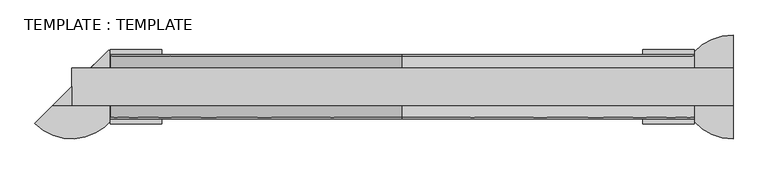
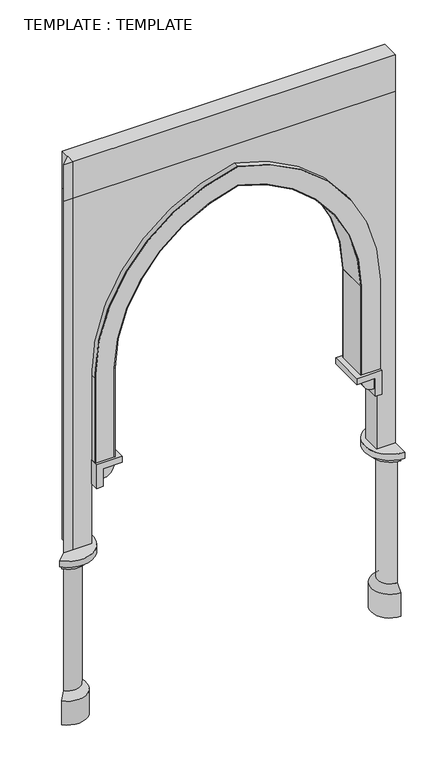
"""IFC4 building model written with IfcOpenShell, lengths in millimetres: plate geometry, TEMPLATE : TEMPLATE."""

from ifc_helpers import new_model, si_unit, point, frame, frame_2d, origin, place, context, project, spatial, polyline, circle_curve, trimmed, segment, composite_curve, outline, extrude, source, transform, mapped, element, save
from ifc_brep_helpers import plane_surface, cylinder_surface, revolved_surface, advanced_brep


def template_template_6cb1fb04(model_context):
    return source(origin(), model_context, "Body", "SolidModel", [
        extrude(outline(polyline([(-1250.0, 0.0), (-1250.0, -71.2450521), (-1321.2450521, -71.2450521), (-1250.0, 0.0)])), frame((0.0, 0.0, 4250.0), z_axis=(0.0, 0.0, 1.0), x_axis=(1.0, 0.0, 0.0)), (0.0, 0.0, 1.0), 300.0),
        extrude(outline(polyline([(1250.0, 71.2450521), (1250.0, -71.2450521), (-1250.0, -71.2450521), (-1250.0, 71.2450521), (1250.0, 71.2450521)])), frame((0.0, 0.0, 4250.0), z_axis=(0.0, 0.0, 1.0), x_axis=(1.0, 0.0, 0.0)), (0.0, 0.0, 1.0), 300.0),
        extrude(outline(composite_curve([segment(polyline([(2062.5, -1103.90625), (2062.5, -952.8125), (2789.7201638, -952.8125)]), True, "CONTINUOUS"), segment(trimmed(circle_curve(frame_2d((2770.9553186, 249.8536177)), 1202.8125), [point((2789.7201638, -952.8125))], [point((3947.5313169, 0.0))], True, "CARTESIAN"), True, "CONTINUOUS"), segment(trimmed(circle_curve(frame_2d((2770.9553186, -249.8536177)), 1202.8125), [point((3947.5313169, 0.0))], [point((2789.7201638, 952.8125))], True, "CARTESIAN"), True, "CONTINUOUS"), segment(polyline([(2789.7201638, 952.8125), (2062.5, 952.8125), (2062.5, 1103.90625), (2751.0466695, 1103.90625)]), True, "CONTINUOUS"), segment(trimmed(circle_curve(frame_2d((2770.9553186, -249.8536177)), 1353.90625), [point((2751.0466695, 1103.90625))], [point((4101.6075284, 0.0))], False, "CARTESIAN"), True, "CONTINUOUS"), segment(trimmed(circle_curve(frame_2d((2770.9553186, 249.8536177)), 1353.90625), [point((4101.6075284, 0.0))], [point((2751.0466695, -1103.90625))], False, "CARTESIAN"), True, "CONTINUOUS"), segment(polyline([(2751.0466695, -1103.90625), (2062.5, -1103.90625)]), True, "CONTINUOUS")], self_intersect=False)), frame((0.0, 116.8675781, 0.0), z_axis=(0.0, 1.0, 0.0), x_axis=(0.0, 0.0, 1.0)), (0.0, 0.0, 1.0), 5.0),
        extrude(outline(polyline([(-1250.0, 0.0), (-1250.0, -71.2450521), (-1321.2450521, -71.2450521), (-1250.0, 0.0)])), frame((0.0, 0.0, 1375.0), z_axis=(0.0, 0.0, 1.0), x_axis=(1.0, 0.0, 0.0)), (0.0, 0.0, 1.0), 2875.0),
        extrude(outline(composite_curve([segment(polyline([(2789.6812853, 952.813106), (2789.7591277, 957.8125)]), True, "CONTINUOUS"), segment(trimmed(circle_curve(frame_2d((2770.9553186, -249.8536177)), 1207.8125), [point((2789.7591277, 957.8125))], [point((3952.642335, 0.0))], False, "CARTESIAN"), True, "CONTINUOUS"), segment(trimmed(circle_curve(frame_2d((2770.9553186, 249.8536177)), 1207.8125), [point((3952.642335, 0.0))], [point((2789.7591277, -957.8125))], False, "CARTESIAN"), True, "CONTINUOUS"), segment(polyline([(2789.7591277, -957.8125), (2789.6812853, -952.813106)]), True, "CONTINUOUS"), segment(trimmed(circle_curve(frame_2d((2770.9553186, 249.8536177)), 1202.8125), [point((2789.6812853, -952.813106))], [point((3947.5313169, 0.0))], True, "CARTESIAN"), True, "CONTINUOUS"), segment(trimmed(circle_curve(frame_2d((2770.9553186, -249.8536177)), 1202.8125), [point((3947.5313169, 0.0))], [point((2789.6812853, 952.813106))], True, "CARTESIAN"), True, "CONTINUOUS")], self_intersect=False)), frame((0.0, -121.8675781, 0.0), z_axis=(0.0, 1.0, 0.0), x_axis=(0.0, 0.0, 1.0)), (0.0, 0.0, 1.0), 238.7351563),
        extrude(outline(polyline([(957.8125, 116.8675781), (957.8125, -121.8675781), (952.8125, -121.8675781), (952.8125, 116.8675781), (957.8125, 116.8675781)])), frame((0.0, 0.0, 2062.5), z_axis=(0.0, 0.0, 1.0), x_axis=(1.0, 0.0, 0.0)), (0.0, 0.0, 1.0), 727.2591277),
        extrude(outline(polyline([(-952.8125, 116.8675781), (-952.8125, -121.8675781), (-957.8125, -121.8675781), (-957.8125, 116.8675781), (-952.8125, 116.8675781)])), frame((0.0, 0.0, 2062.5), z_axis=(0.0, 0.0, 1.0), x_axis=(1.0, 0.0, 0.0)), (0.0, 0.0, 1.0), 727.2591277),
        extrude(outline(composite_curve([segment(polyline([(2013.8020833, 1055.2083333), (2013.8020833, 957.8125)]), True, "CONTINUOUS"), segment(trimmed(circle_curve(frame_2d((2013.8020833, 1055.2083333)), 97.3958333), [point((2013.8020833, 957.8125))], [point((1916.40625, 1055.2083333))], False, "CARTESIAN"), True, "CONTINUOUS"), segment(polyline([(1916.40625, 1055.2083333), (2013.8020833, 1055.2083333)]), True, "CONTINUOUS")], self_intersect=False)), frame((0.0, -121.8675781, 0.0), z_axis=(0.0, 1.0, 0.0), x_axis=(0.0, 0.0, 1.0)), (0.0, 0.0, 1.0), 238.7351563),
        extrude(outline(composite_curve([segment(polyline([(2013.8020833, -1055.2083333), (1916.40625, -1055.2083333)]), True, "CONTINUOUS"), segment(trimmed(circle_curve(frame_2d((2013.8020833, -1055.2083333)), 97.3958333), [point((1916.40625, -1055.2083333))], [point((2013.8020833, -957.8125))], False, "CARTESIAN"), True, "CONTINUOUS"), segment(polyline([(2013.8020833, -957.8125), (2013.8020833, -1055.2083333)]), True, "CONTINUOUS")], self_intersect=False)), frame((0.0, -121.8675781, 0.0), z_axis=(0.0, 1.0, 0.0), x_axis=(0.0, 0.0, 1.0)), (0.0, 0.0, 1.0), 238.7351563),
        advanced_brep(
        [(-1110.8841065, 139.1158935, 1375.0), (-1110.8841065, 139.1158935, 1324.3541667), (-1146.6961187, 103.3038813, 1324.3541667), (-1146.6961187, 103.3038813, 1273.7083333), (-1181.1307458, 68.8692542, 1273.7083333), (-1181.1307458, 68.8692542, 245.4375), (-1146.6961187, 103.3038813, 194.7916667), (-1146.6961187, 103.3038813, 0.0), (-1250.0, 0.0, 0.0), (-1250.0, 0.0, 1375.0), (-1389.1158935, -139.1158935, 1375.0), (-1353.3038813, -103.3038813, 0.0), (-1353.3038813, -103.3038813, 194.7916667), (-1318.8692542, -68.8692542, 245.4375), (-1318.8692542, -68.8692542, 1273.7083333), (-1353.3038813, -103.3038813, 1273.7083333), (-1353.3038813, -103.3038813, 1324.3541667), (-1389.1158935, -139.1158935, 1324.3541667)],
        [
            (0, 1),
            (1, 2),
            (2, 3),
            (3, 4),
            (4, 5),
            (5, 6),
            (6, 7),
            (7, 8),
            (8, 9),
            (9, 0),
            (10, 9),
            (8, 11),
            (11, 12),
            (12, 13),
            (13, 14),
            (14, 15),
            (15, 16),
            (16, 17),
            (17, 10),
            (17, 1, circle_curve(frame((-1250.0, 0.0, 1324.3541667), z_axis=(0.0, 0.0, 1.0), x_axis=(0.7071067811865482, 0.707106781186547, 0.0)), 196.7395833)),
            (0, 10, circle_curve(frame((-1250.0, 0.0, 1375.0), z_axis=(0.0, 0.0, -1.0), x_axis=(0.7071067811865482, 0.707106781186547, 0.0)), 196.7395833)),
            (16, 2, circle_curve(frame((-1250.0, 0.0, 1324.3541667), z_axis=(0.0, 0.0, 1.0), x_axis=(0.7071067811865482, 0.707106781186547, 0.0)), 146.09375)),
            (15, 3, circle_curve(frame((-1250.0, 0.0, 1273.7083333), z_axis=(0.0, 0.0, 1.0), x_axis=(0.7071067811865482, 0.707106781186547, 0.0)), 146.09375)),
            (14, 4, circle_curve(frame((-1250.0, 0.0, 1273.7083333), z_axis=(0.0, 0.0, 1.0), x_axis=(0.7071067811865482, 0.707106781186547, 0.0)), 97.3958333)),
            (13, 5, circle_curve(frame((-1250.0, 0.0, 245.4375), z_axis=(0.0, 0.0, 1.0), x_axis=(0.7071067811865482, 0.707106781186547, 0.0)), 97.3958333)),
            (12, 6, circle_curve(frame((-1250.0, 0.0, 194.7916667), z_axis=(0.0, 0.0, 1.0), x_axis=(0.7071067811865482, 0.707106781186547, 0.0)), 146.09375)),
            (11, 7, circle_curve(frame((-1250.0, 0.0, 0.0), z_axis=(0.0, 0.0, 1.0), x_axis=(0.7071067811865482, 0.707106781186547, 0.0)), 146.09375)),
        ],
        [
            plane_surface(frame((-1250.0, 0.0, -1400.0), z_axis=(-0.707106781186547, 0.7071067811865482, 0.0), x_axis=(0.7071067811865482, 0.707106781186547, 0.0))),
            plane_surface(frame((-1250.0, 0.0, -1400.0), z_axis=(-0.7071067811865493, 0.7071067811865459, 0.0), x_axis=(-0.7071067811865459, -0.7071067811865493, 0.0))),
            cylinder_surface(frame((-1250.0, 0.0, -1400.0), z_axis=(0.0, 0.0, 1.0), x_axis=(0.7071067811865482, 0.707106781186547, 0.0)), 196.7395833),
            plane_surface(frame((-1250.0, 0.0, 1324.3541667), z_axis=(0.0, 0.0, -1.0000000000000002), x_axis=(0.7071067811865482, 0.707106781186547, 0.0))),
            cylinder_surface(frame((-1250.0, 0.0, -1400.0), z_axis=(0.0, 0.0, 1.0), x_axis=(0.7071067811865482, 0.707106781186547, 0.0)), 146.09375),
            plane_surface(frame((-1250.0, 0.0, 1273.7083333), z_axis=(0.0, 0.0, -1.0000000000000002), x_axis=(0.7071067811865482, 0.707106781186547, 0.0))),
            cylinder_surface(frame((-1250.0, 0.0, -1400.0), z_axis=(0.0, 0.0, 1.0), x_axis=(0.7071067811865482, 0.707106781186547, 0.0)), 97.3958333),
            revolved_surface(polyline([(-1146.6961187, 103.3038813, 194.7916667), (-1181.1307458, 68.8692542, 245.4375)]), (-1250.0, 0.0, -1400.0), (0.0, 0.0, 1.0)),
            plane_surface(frame((-1250.0, 0.0, 0.0), z_axis=(0.0, 0.0, -1.0000000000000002), x_axis=(0.7071067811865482, 0.707106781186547, 0.0))),
            plane_surface(frame((-1250.0, 0.0, 1375.0), z_axis=(0.0, 0.0, 1.0000000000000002), x_axis=(0.7071067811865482, 0.707106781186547, 0.0))),
        ],
        [
            (0, [[1, 2, 3, 4, 5, 6, 7, 8, 9, 10]]),
            (1, [[11, -9, 12, 13, 14, 15, 16, 17, 18, 19]]),
            (2, [[-19, 20, -1, 21]]),
            (3, [[-18, 22, -2, -20]]),
            (4, [[-17, 23, -3, -22]]),
            (5, [[-16, 24, -4, -23]]),
            (6, [[-15, 25, -5, -24]]),
            (7, [[-14, 26, -6, -25]]),
            (4, [[-13, 27, -7, -26]]),
            (8, [[-12, -8, -27]]),
            (9, [[-11, -21, -10]]),
        ],
    ),
        extrude(outline(polyline([(2062.5, 1103.90625), (2062.5, 909.1145833), (2013.8020833, 909.1145833), (2013.8020833, 1055.2083333), (1867.7083333, 1055.2083333), (1867.7083333, 1103.90625), (2062.5, 1103.90625)])), frame((0.0, -141.2165365, 0.0), z_axis=(0.0, 1.0, 0.0), x_axis=(0.0, 0.0, 1.0)), (0.0, 0.0, 1.0), 282.4330729),
        extrude(outline(polyline([(2062.5, -1103.90625), (1867.7083333, -1103.90625), (1867.7083333, -1055.2083333), (2013.8020833, -1055.2083333), (2013.8020833, -909.1145833), (2062.5, -909.1145833), (2062.5, -1103.90625)])), frame((0.0, -141.2165365, 0.0), z_axis=(0.0, 1.0, 0.0), x_axis=(0.0, 0.0, 1.0)), (0.0, 0.0, 1.0), 282.4330729),
        advanced_brep(
        [(1250.0, 196.7395833, 1375.0), (1250.0, 0.0, 1375.0), (1250.0, 0.0, 0.0), (1250.0, 146.09375, 0.0), (1250.0, 146.09375, 194.7916667), (1250.0, 97.3958333, 245.4375), (1250.0, 97.3958333, 1273.7083333), (1250.0, 146.09375, 1273.7083333), (1250.0, 146.09375, 1324.3541667), (1250.0, 196.7395833, 1324.3541667), (1250.0, -196.7395833, 1375.0), (1250.0, -196.7395833, 1324.3541667), (1250.0, -146.09375, 1324.3541667), (1250.0, -146.09375, 1273.7083333), (1250.0, -97.3958333, 1273.7083333), (1250.0, -97.3958333, 245.4375), (1250.0, -146.09375, 194.7916667), (1250.0, -146.09375, 0.0)],
        [
            (0, 1),
            (1, 2),
            (2, 3),
            (3, 4),
            (4, 5),
            (5, 6),
            (6, 7),
            (7, 8),
            (8, 9),
            (9, 0),
            (10, 11),
            (11, 12),
            (12, 13),
            (13, 14),
            (14, 15),
            (15, 16),
            (16, 17),
            (17, 2),
            (1, 10),
            (10, 0, circle_curve(frame((1250.0, 0.0, 1375.0), z_axis=(0.0, 0.0, -1.0), x_axis=(0.0, 1.0000000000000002, 0.0)), 196.7395833)),
            (9, 11, circle_curve(frame((1250.0, 0.0, 1324.3541667), z_axis=(0.0, 0.0, 1.0), x_axis=(0.0, 1.0000000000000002, 0.0)), 196.7395833)),
            (8, 12, circle_curve(frame((1250.0, 0.0, 1324.3541667), z_axis=(0.0, 0.0, 1.0), x_axis=(0.0, 1.0000000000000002, 0.0)), 146.09375)),
            (7, 13, circle_curve(frame((1250.0, 0.0, 1273.7083333), z_axis=(0.0, 0.0, 1.0), x_axis=(0.0, 1.0000000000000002, 0.0)), 146.09375)),
            (6, 14, circle_curve(frame((1250.0, 0.0, 1273.7083333), z_axis=(0.0, 0.0, 1.0), x_axis=(0.0, 1.0000000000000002, 0.0)), 97.3958333)),
            (5, 15, circle_curve(frame((1250.0, 0.0, 245.4375), z_axis=(0.0, 0.0, 1.0), x_axis=(0.0, 1.0000000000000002, 0.0)), 97.3958333)),
            (4, 16, circle_curve(frame((1250.0, 0.0, 194.7916667), z_axis=(0.0, 0.0, 1.0), x_axis=(0.0, 1.0000000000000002, 0.0)), 146.09375)),
            (3, 17, circle_curve(frame((1250.0, 0.0, 0.0), z_axis=(0.0, 0.0, 1.0), x_axis=(0.0, 1.0000000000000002, 0.0)), 146.09375)),
        ],
        [
            plane_surface(frame((1250.0, 0.0, -1400.0), z_axis=(1.0, 0.0, 0.0), x_axis=(0.0, 1.0, 0.0))),
            plane_surface(frame((1250.0, 0.0, -1400.0), z_axis=(1.0, 0.0, 0.0), x_axis=(0.0, -1.0, 0.0))),
            cylinder_surface(frame((1250.0, 0.0, -1400.0), z_axis=(0.0, 0.0, -1.0), x_axis=(0.0, 1.0000000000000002, 0.0)), 196.7395833),
            plane_surface(frame((1250.0, 0.0, 1324.3541667), z_axis=(0.0, 0.0, -1.0), x_axis=(0.0, 1.0, 0.0))),
            cylinder_surface(frame((1250.0, 0.0, -1400.0), z_axis=(0.0, 0.0, -1.0), x_axis=(0.0, 1.0000000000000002, 0.0)), 146.09375),
            plane_surface(frame((1250.0, 0.0, 1273.7083333), z_axis=(0.0, 0.0, -1.0), x_axis=(0.0, 1.0, 0.0))),
            cylinder_surface(frame((1250.0, 0.0, -1400.0), z_axis=(0.0, 0.0, -1.0), x_axis=(0.0, 1.0000000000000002, 0.0)), 97.3958333),
            revolved_surface(polyline([(1250.0, 97.3958333, 245.4375), (1250.0, 146.09375, 194.7916667)]), (1250.0, 0.0, -1400.0), (0.0, 0.0, -1.0)),
            plane_surface(frame((1250.0, 0.0, 0.0), z_axis=(0.0, 0.0, -1.0), x_axis=(0.0, 1.0, 0.0))),
            plane_surface(frame((1250.0, 0.0, 1375.0), z_axis=(0.0, 0.0, 1.0), x_axis=(0.0, 1.0, 0.0))),
        ],
        [
            (0, [[1, 2, 3, 4, 5, 6, 7, 8, 9, 10]]),
            (1, [[11, 12, 13, 14, 15, 16, 17, 18, -2, 19]]),
            (2, [[-11, 20, -10, 21]]),
            (3, [[-12, -21, -9, 22]]),
            (4, [[-13, -22, -8, 23]]),
            (5, [[-14, -23, -7, 24]]),
            (6, [[-15, -24, -6, 25]]),
            (7, [[-16, -25, -5, 26]]),
            (4, [[-17, -26, -4, 27]]),
            (8, [[-18, -27, -3]]),
            (9, [[-19, -1, -20]]),
        ],
    ),
        extrude(outline(composite_curve([segment(polyline([(1375.0, 1250.0), (4250.0, 1250.0), (4250.0, -1250.0), (1375.0, -1250.0), (1375.0, -1103.90625), (2790.8639676, -1103.90625)]), True, "CONTINUOUS"), segment(trimmed(circle_curve(frame_2d((2770.9553186, 249.8536177)), 1353.90625), [point((2790.8639676, -1103.90625))], [point((4101.6075284, 0.0))], True, "CARTESIAN"), True, "CONTINUOUS"), segment(trimmed(circle_curve(frame_2d((2770.9553186, -249.8536177)), 1353.90625), [point((4101.6075284, 0.0))], [point((2790.8639676, 1103.90625))], True, "CARTESIAN"), True, "CONTINUOUS"), segment(polyline([(2790.8639676, 1103.90625), (1375.0, 1103.90625), (1375.0, 1250.0)]), True, "CONTINUOUS")], self_intersect=False)), frame((0.0, -71.2450521, 0.0), z_axis=(0.0, 1.0, 0.0), x_axis=(0.0, 0.0, 1.0)), (0.0, 0.0, 1.0), 142.4901042),
        extrude(outline(composite_curve([segment(trimmed(circle_curve(frame_2d((2770.9553186, 249.8536177)), 1353.90625), [point((4101.6075284, 0.0))], [point((2790.8639676, -1103.90625))], False, "CARTESIAN"), True, "CONTINUOUS"), segment(polyline([(2790.8639676, -1103.90625), (2062.5, -1103.90625), (2062.5, -957.8125), (2789.7591277, -957.8125)]), True, "CONTINUOUS"), segment(trimmed(circle_curve(frame_2d((2770.9553186, 249.8536177)), 1207.8125), [point((2789.7591277, -957.8125))], [point((3952.642335, 0.0))], True, "CARTESIAN"), True, "CONTINUOUS"), segment(trimmed(circle_curve(frame_2d((2770.9553186, -249.8536177)), 1207.8125), [point((3952.642335, 0.0))], [point((2789.7591277, 957.8125))], True, "CARTESIAN"), True, "CONTINUOUS"), segment(polyline([(2789.7591277, 957.8125), (2062.5, 957.8125), (2062.5, 1103.90625), (2790.8639676, 1103.90625)]), True, "CONTINUOUS"), segment(trimmed(circle_curve(frame_2d((2770.9553186, -249.8536177)), 1353.90625), [point((2790.8639676, 1103.90625))], [point((4101.6075284, 0.0))], False, "CARTESIAN"), True, "CONTINUOUS")], self_intersect=False)), frame((0.0, -121.8675781, 0.0), z_axis=(0.0, 1.0, 0.0), x_axis=(0.0, 0.0, 1.0)), (0.0, 0.0, 1.0), 5.0),
        extrude(outline(polyline([(-957.8125, -116.8675781), (-1103.90625, -116.8675781), (-1103.90625, 116.8675781), (-957.8125, 116.8675781), (-957.8125, -116.8675781)])), frame((0.0, 0.0, 2062.5), z_axis=(0.0, 0.0, 1.0), x_axis=(1.0, 0.0, 0.0)), (0.0, 0.0, 1.0), 687.5),
        extrude(outline(polyline([(957.8125, -116.8675781), (957.8125, 116.8675781), (1103.90625, 116.8675781), (1103.90625, -116.8675781), (957.8125, -116.8675781)])), frame((0.0, 0.0, 2062.5), z_axis=(0.0, 0.0, 1.0), x_axis=(1.0, 0.0, 0.0)), (0.0, 0.0, 1.0), 687.5),
        extrude(outline(composite_curve([segment(polyline([(2752.0409607, -1103.920507), (2754.0819214, -957.841014)]), True, "CONTINUOUS"), segment(trimmed(circle_curve(frame_2d((2770.9553186, 249.8536177)), 1207.8125), [point((2754.0819214, -957.841014))], [point((3952.642335, 0.0))], True, "CARTESIAN"), True, "CONTINUOUS"), segment(trimmed(circle_curve(frame_2d((2770.9553186, -249.8536177)), 1207.8125), [point((3952.642335, 0.0))], [point((2754.0819214, 957.841014))], True, "CARTESIAN"), True, "CONTINUOUS"), segment(polyline([(2754.0819214, 957.841014), (2752.0409607, 1103.920507)]), True, "CONTINUOUS"), segment(trimmed(circle_curve(frame_2d((2770.9553186, -249.8536177)), 1353.90625), [point((2752.0409607, 1103.920507))], [point((4101.6075284, 0.0))], False, "CARTESIAN"), True, "CONTINUOUS"), segment(trimmed(circle_curve(frame_2d((2770.9553186, 249.8536177)), 1353.90625), [point((4101.6075284, 0.0))], [point((2752.0409607, -1103.920507))], False, "CARTESIAN"), True, "CONTINUOUS")], self_intersect=False)), frame((0.0, -116.8675781, 0.0), z_axis=(0.0, 1.0, 0.0), x_axis=(0.0, 0.0, 1.0)), (0.0, 0.0, 1.0), 233.7351563),
    ])


if __name__ == "__main__":
    model = new_model("IFC4")
    model_context = context("Model", 3, world=origin())
    ifc_project = project(units=[si_unit("LENGTHUNIT", "METRE", prefix="MILLI")], contexts=[model_context])
    site = spatial("IfcSite", under=ifc_project)
    building = spatial("IfcBuilding", under=site)
    placement = place(None, origin())
    template_template_shape = template_template_6cb1fb04(model_context)
    element("IfcPlate", 1, ObjectType="TEMPLATE : TEMPLATE", at=placement, inside=building, context=model_context, shape_type="MappedRepresentation", body=[
        mapped(template_template_shape, transform((0.0, 0.0, 0.0), x_axis=(1.0, 0.0, 0.0), y_axis=(0.0, 1.0, 0.0), z_axis=(0.0, 0.0, 1.0))),
    ])
    save(model, "model.ifc")
